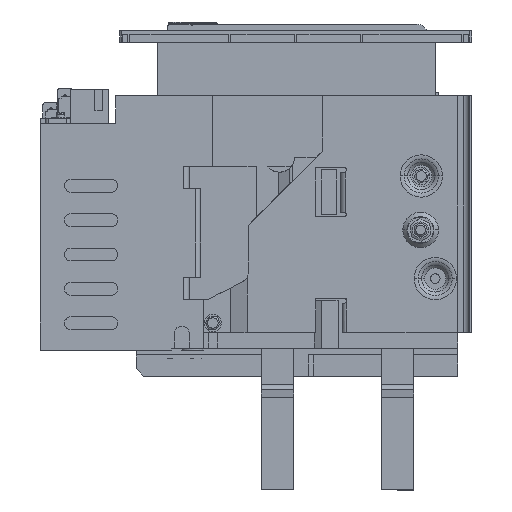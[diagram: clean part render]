
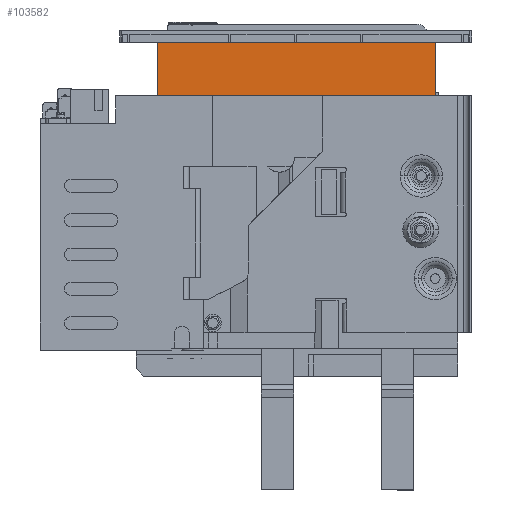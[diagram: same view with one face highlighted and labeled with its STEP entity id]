
A CAD part, left-side view. The second image highlights one B-rep face of the part: STEP entity #103582.
In plain terms, the highlighted planar face has unit normal (-1, 0, 0) as drawn and (0, -1, 0) by its records, which use the part's own axes.
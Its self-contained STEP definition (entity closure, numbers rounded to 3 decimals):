
#1923 = EDGE_CURVE ( 'NONE', #102302, #65028, #121984, .T. ) ;
#3124 = DIRECTION ( 'NONE',  ( 0., 0., -1. ) ) ;
#10671 = CARTESIAN_POINT ( 'NONE',  ( 191.362, -177.745, 292.277 ) ) ;
#12386 = EDGE_LOOP ( 'NONE', ( #66863, #64999, #50891, #31786 ) ) ;
#13771 = EDGE_CURVE ( 'NONE', #23996, #65028, #99859, .T. ) ;
#15931 = CARTESIAN_POINT ( 'NONE',  ( 191.362, -177.745, 34.148 ) ) ;
#16910 = DIRECTION ( 'NONE',  ( 0., 0., -1. ) ) ;
#19958 = LINE ( 'NONE', #10671, #79477 ) ;
#22981 = PLANE ( 'NONE',  #89373 ) ;
#23996 = VERTEX_POINT ( 'NONE', #117813 ) ;
#30464 = DIRECTION ( 'NONE',  ( 0., -1., 0. ) ) ;
#31786 = ORIENTED_EDGE ( 'NONE', *, *, #1923, .T. ) ;
#35197 = VECTOR ( 'NONE', #90536, 1000. ) ;
#36089 = EDGE_CURVE ( 'NONE', #103113, #23996, #19958, .T. ) ;
#47015 = CARTESIAN_POINT ( 'NONE',  ( 135.862, -177.745, 292.277 ) ) ;
#50891 = ORIENTED_EDGE ( 'NONE', *, *, #108691, .F. ) ;
#55132 = LINE ( 'NONE', #47015, #93864 ) ;
#64999 = ORIENTED_EDGE ( 'NONE', *, *, #36089, .F. ) ;
#65028 = VERTEX_POINT ( 'NONE', #80709 ) ;
#66863 = ORIENTED_EDGE ( 'NONE', *, *, #13771, .F. ) ;
#75294 = CARTESIAN_POINT ( 'NONE',  ( 135.862, -177.745, 292.277 ) ) ;
#79477 = VECTOR ( 'NONE', #85865, 1000. ) ;
#80709 = CARTESIAN_POINT ( 'NONE',  ( 135.862, -177.745, 34.148 ) ) ;
#83969 = VECTOR ( 'NONE', #16910, 1000. ) ;
#85865 = DIRECTION ( 'NONE',  ( 0., 0., -1. ) ) ;
#89373 = AXIS2_PLACEMENT_3D ( 'NONE', #107572, #30464, #3124 ) ;
#89631 = CARTESIAN_POINT ( 'NONE',  ( 191.362, -177.745, 292.277 ) ) ;
#90536 = DIRECTION ( 'NONE',  ( -1., 0., 0. ) ) ;
#93864 = VECTOR ( 'NONE', #114839, 1000. ) ;
#99859 = LINE ( 'NONE', #15931, #35197 ) ;
#102302 = VERTEX_POINT ( 'NONE', #122537 ) ;
#103113 = VERTEX_POINT ( 'NONE', #89631 ) ;
#103582 = ADVANCED_FACE ( 'NONE', ( #108200 ), #22981, .T. ) ;
#107572 = CARTESIAN_POINT ( 'NONE',  ( 184.014, -177.745, 36.148 ) ) ;
#108200 = FACE_OUTER_BOUND ( 'NONE', #12386, .T. ) ;
#108691 = EDGE_CURVE ( 'NONE', #102302, #103113, #55132, .T. ) ;
#114839 = DIRECTION ( 'NONE',  ( 1., 0., 0. ) ) ;
#117813 = CARTESIAN_POINT ( 'NONE',  ( 191.362, -177.745, 34.148 ) ) ;
#121984 = LINE ( 'NONE', #75294, #83969 ) ;
#122537 = CARTESIAN_POINT ( 'NONE',  ( 135.862, -177.745, 292.277 ) ) ;
